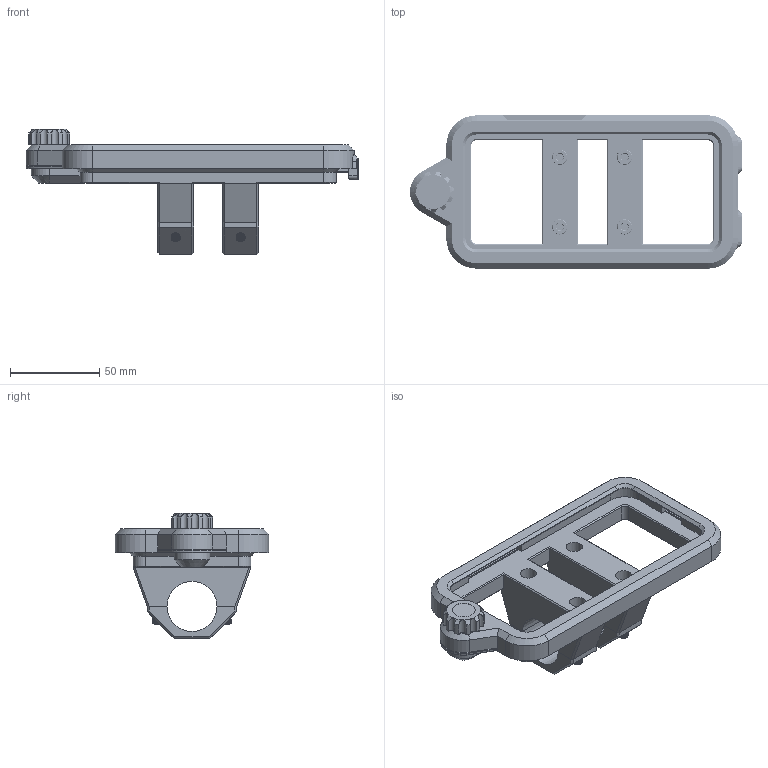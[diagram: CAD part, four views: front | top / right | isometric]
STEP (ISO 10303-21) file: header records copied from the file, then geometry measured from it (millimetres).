
FILE_DESCRIPTION(/* description */ (''),/* implementation_level */ '2;1');
FILE_NAME(/* name */ '//hochris_server/home/Daten/HoChri/Dokumente usw/3D Druck/cell_phone_mount v18.step',/* time_stamp */ '2022-02-05T16:39:08+01:00',/* author */ (''),/* organization */ (''),/* preprocessor_version */ 'ST-DEVELOPER v18.1',/* originating_system */ 'Autodesk Translation Framework v10.13.0.1454',/* authorisation */ '');
FILE_SCHEMA (('AUTOMOTIVE_DESIGN { 1 0 10303 214 3 1 1 }'));
Products named in the file (7): cell_phone_mount; Upper shell; Lower shell; Klemme 1; 91290A194_Black-Oxide Alloy Steel Socket Head Screw; 91280A054_Medium-Strength Class 8.8 Steel Hex Head Screw; screw_head
Assembly tree (9 placements, depth 2):
  cell_phone_mount
    Upper shell
    Lower shell
    Klemme 1
    91290A194_Black-Oxide Alloy Steel Socket Head Screw  x4
    91280A054_Medium-Strength Class 8.8 Steel Hex Head Screw
    screw_head
Bounding box: 185.6 x 85.7 x 70 mm (x, y, z)
Volume: 140987.8 mm3; surface area: 68103.3 mm2
Topology: 11 solids, 11 shells, 1105 faces, 3012 edges, 1939 vertices
Faces by surface type: cylinder 581, plane 323, cone 103, bspline 98
Full cylindrical faces by diameter (mm): 3.961 x170, 4.234 x26, 5 x166, 5.12 x6, 5.2 x1, 5.5 x4, 6 x1, 8.5 x4, 9 x4, 13 x2
Entity records: 71244 total; most frequent: CARTESIAN_POINT 52201, ORIENTED_EDGE 4422, DIRECTION 3232, EDGE_CURVE 2211, VERTEX_POINT 1420, LINE 1080, VECTOR 1080, AXIS2_PLACEMENT_3D 1076
